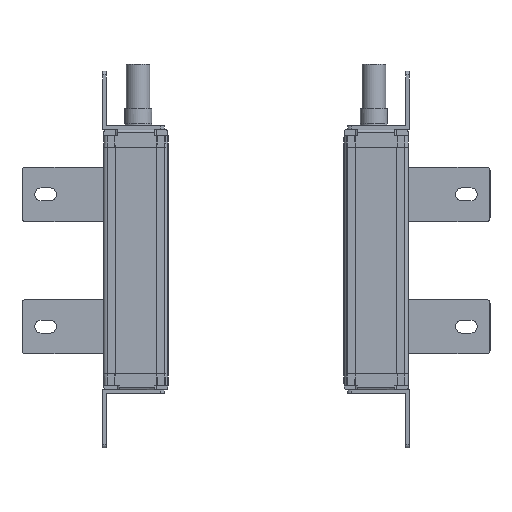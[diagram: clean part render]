
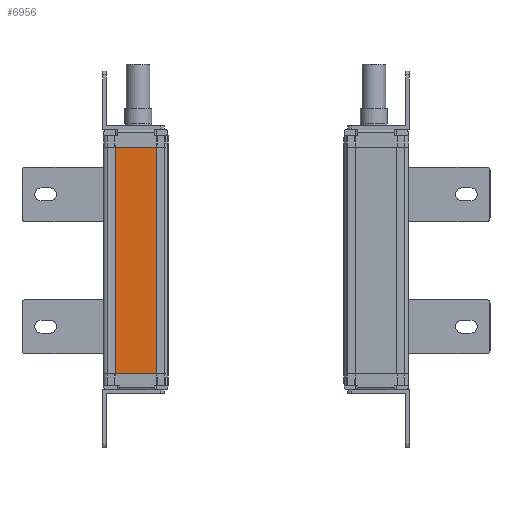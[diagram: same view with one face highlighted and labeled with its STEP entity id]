
A CAD part, left-side view. The second image highlights one B-rep face of the part: STEP entity #6956.
In plain terms, the highlighted planar face has unit normal (-1, 0, 0).
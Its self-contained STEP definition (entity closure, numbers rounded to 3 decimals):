
#953=FACE_OUTER_BOUND('',#9034,.T.);
#2188=LINE('',#33710,#4326);
#2290=LINE('',#34050,#4428);
#2291=LINE('',#34052,#4429);
#2292=LINE('',#34054,#4430);
#4326=VECTOR('',#26897,1.);
#4428=VECTOR('',#27185,1.);
#4429=VECTOR('',#27188,1.);
#4430=VECTOR('',#27189,1.);
#6178=PLANE('',#23723);
#6956=ADVANCED_FACE('',(#953),#6178,.T.);
#9034=EDGE_LOOP('',(#11681,#11682,#11683,#11684));
#11681=ORIENTED_EDGE('',*,*,#19828,.F.);
#11682=ORIENTED_EDGE('',*,*,#19829,.T.);
#11683=ORIENTED_EDGE('',*,*,#19830,.T.);
#11684=ORIENTED_EDGE('',*,*,#19658,.F.);
#17203=VERTEX_POINT('',#33709);
#17204=VERTEX_POINT('',#33711);
#17348=VERTEX_POINT('',#34049);
#17349=VERTEX_POINT('',#34053);
#19658=EDGE_CURVE('',#17203,#17204,#2188,.T.);
#19828=EDGE_CURVE('',#17348,#17203,#2290,.T.);
#19829=EDGE_CURVE('',#17348,#17349,#2291,.T.);
#19830=EDGE_CURVE('',#17349,#17204,#2292,.T.);
#23723=AXIS2_PLACEMENT_3D('',#34055,#27190,#27191);
#26897=DIRECTION('',(0.,-1.,0.));
#27185=DIRECTION('',(0.,0.,1.));
#27188=DIRECTION('',(0.,-1.,0.));
#27189=DIRECTION('',(0.,0.,1.));
#27190=DIRECTION('',(-1.,0.,0.));
#27191=DIRECTION('',(0.,-1.,0.));
#33709=CARTESIAN_POINT('',(233.846,104.141,31.645));
#33710=CARTESIAN_POINT('',(233.846,81.141,31.645));
#33711=CARTESIAN_POINT('',(233.846,81.141,31.645));
#34049=CARTESIAN_POINT('',(233.846,104.141,-93.355));
#34050=CARTESIAN_POINT('',(233.846,104.141,-155.355));
#34052=CARTESIAN_POINT('',(233.846,81.141,-93.355));
#34053=CARTESIAN_POINT('',(233.846,81.141,-93.355));
#34054=CARTESIAN_POINT('',(233.846,81.141,-155.355));
#34055=CARTESIAN_POINT('',(233.846,81.141,-50.355));
